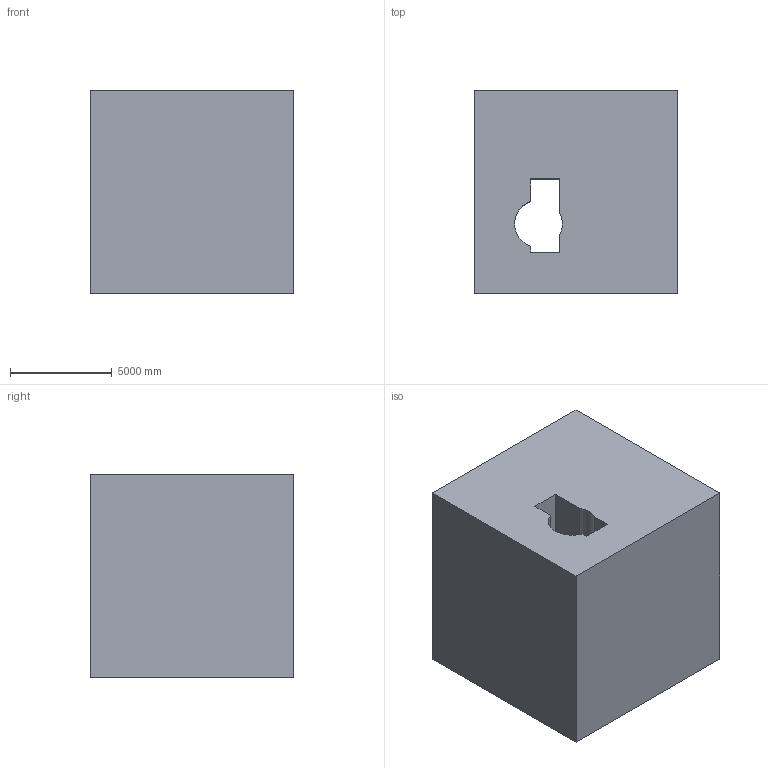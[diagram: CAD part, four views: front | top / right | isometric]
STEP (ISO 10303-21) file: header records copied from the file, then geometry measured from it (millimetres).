
FILE_DESCRIPTION (( 'STEP AP203' ), '1' );
FILE_NAME ('1163.STEP', '2022-08-18T13:00:33', ( 'user' ), ( '' ), 'SwSTEP 2.0', 'SolidWorks 2021', '' );
FILE_SCHEMA (( 'CONFIG_CONTROL_DESIGN' ));
Length unit declared in the file: centimetre
Products named in the file (1): 1163
Bounding box: 10000 x 10000 x 10000 mm (x, y, z)
Volume: 934229791371.7 mm3; surface area: 695142804.9 mm2
Topology: 1 solids, 1 shells, 15 faces, 39 edges, 26 vertices
Faces by surface type: plane 12, cylinder 3
Entity records: 540 total; most frequent: CARTESIAN_POINT 81, ORIENTED_EDGE 78, DIRECTION 77, EDGE_CURVE 39, LINE 33, VECTOR 33, VERTEX_POINT 26, AXIS2_PLACEMENT_3D 22
